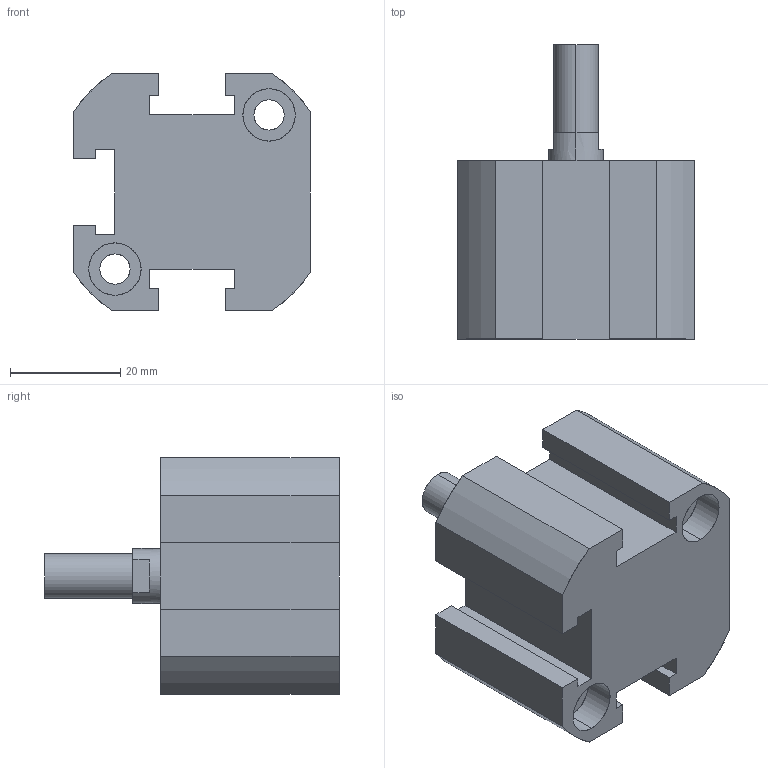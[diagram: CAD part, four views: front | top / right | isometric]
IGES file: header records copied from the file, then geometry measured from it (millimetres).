
Start section: SolidWorks IGES file using analytic representation for surfaces
Global section: file name: C:\Users\Toshiba\Desktop\XC#M1-25-10.IGS; native system: SolidWorks 2014; preprocessor: SolidWorks 2014; author: Toshiba; date: 160523.163807; units: millimetre
Bounding box: 43 x 53.5 x 43 mm (x, y, z)
Surface area: 12460.9 mm2 (no closed solid volume)
Topology: 0 solids, 0 shells, 88 faces, 1288 edges, 1286 vertices
Faces by surface type: bspline 46, revolution 42
